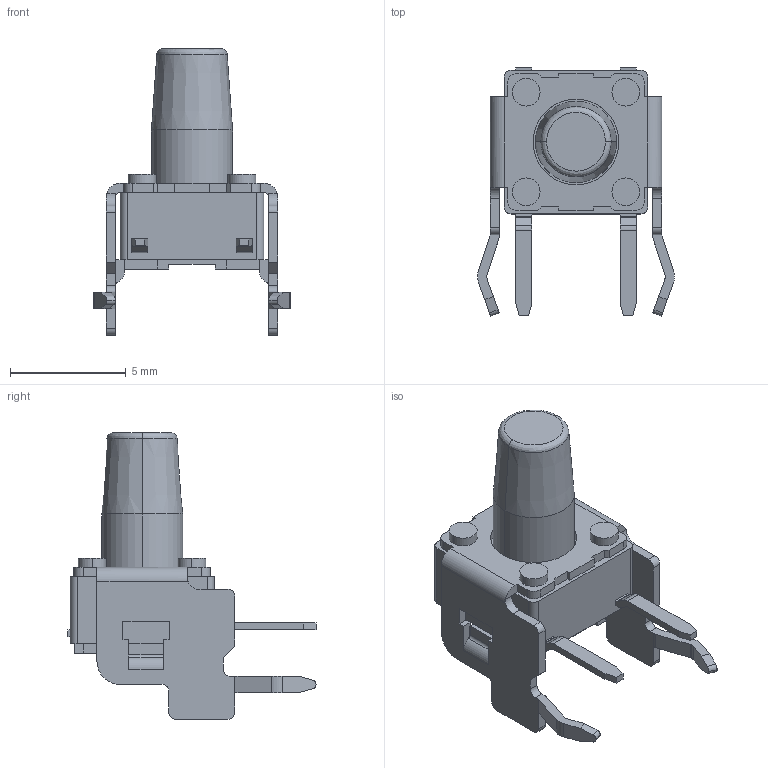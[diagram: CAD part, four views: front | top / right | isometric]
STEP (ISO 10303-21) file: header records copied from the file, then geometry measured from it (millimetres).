
FILE_DESCRIPTION (( 'STEP AP203' ), '1' );
FILE_NAME ('TS-65K-RA.STEP', '2018-01-18T09:30:44', ( '' ), ( '' ), 'SwSTEP 2.0', 'SolidWorks 2017', '' );
FILE_SCHEMA (( 'CONFIG_CONTROL_DESIGN' ));
Length unit declared in the file: millimetre
Products named in the file (1): TS-65K-RA
Bounding box: 8.5 x 10.7 x 12.35 mm (x, y, z)
Volume: 214.3 mm3; surface area: 414.4 mm2
Topology: 1 solids, 1 shells, 232 faces, 647 edges, 424 vertices
Faces by surface type: plane 159, cylinder 69, cone 2, bspline 2
Entity records: 7512 total; most frequent: CARTESIAN_POINT 1346, ORIENTED_EDGE 1294, DIRECTION 1247, EDGE_CURVE 647, LINE 501, VECTOR 501, VERTEX_POINT 424, AXIS2_PLACEMENT_3D 373
